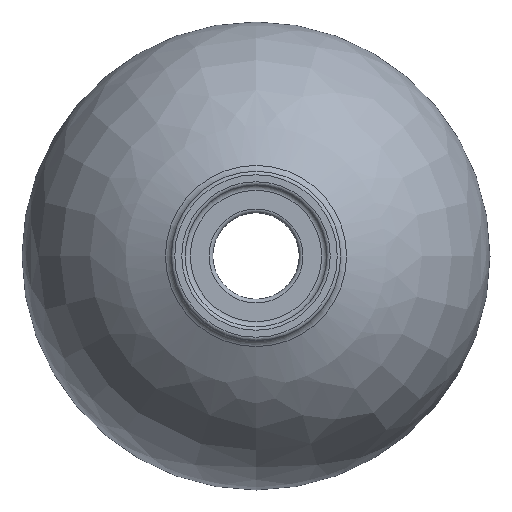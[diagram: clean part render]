
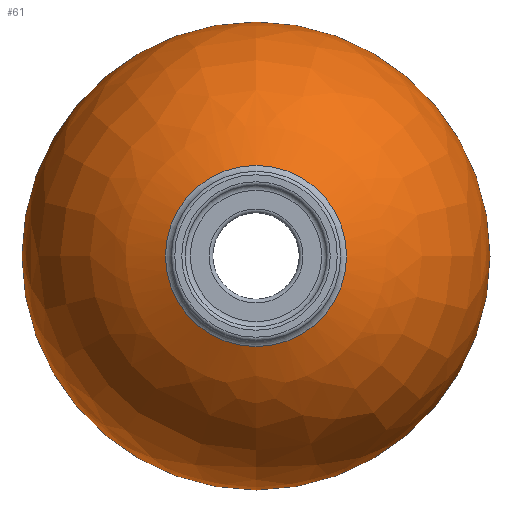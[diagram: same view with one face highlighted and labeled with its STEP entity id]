
A CAD part, front view. The second image highlights one B-rep face of the part: STEP entity #61.
In plain terms, the highlighted free-form (B-spline) face has degree [3, 3] with [4, 7] control points.
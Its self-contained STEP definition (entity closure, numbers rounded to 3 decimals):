
#55=(
BOUNDED_SURFACE()
B_SPLINE_SURFACE(3,3,((#367,#368,#369,#370,#371,#372,#373),(#374,#375,#376,
#377,#378,#379,#380),(#381,#382,#383,#384,#385,#386,#387),(#388,#389,#390,
#391,#392,#393,#394)),.UNSPECIFIED.,.F.,.T.,.F.)
B_SPLINE_SURFACE_WITH_KNOTS((4,4),(1,3,3,3,1),(0.,1.),(-0.5,0.,0.5,1.,1.5),
 .UNSPECIFIED.)
GEOMETRIC_REPRESENTATION_ITEM()
RATIONAL_B_SPLINE_SURFACE(((1.,0.333,0.333,1.,0.333,
0.333,1.),(0.888,0.296,0.296,
0.888,0.296,0.296,0.888),
(0.888,0.296,0.296,0.888,
0.296,0.296,0.888),(1.,0.333,
0.333,1.,0.333,0.333,1.)))
REPRESENTATION_ITEM('')
SURFACE()
);
#61=ADVANCED_FACE('',(#84,#85),#55,.T.);
#84=FACE_BOUND('',#118,.T.);
#85=FACE_BOUND('',#119,.T.);
#118=EDGE_LOOP('',(#152));
#119=EDGE_LOOP('',(#153));
#152=ORIENTED_EDGE('',*,*,#202,.T.);
#153=ORIENTED_EDGE('',*,*,#201,.T.);
#184=VERTEX_POINT('',#363);
#185=VERTEX_POINT('',#366);
#201=EDGE_CURVE('',#184,#184,#218,.T.);
#202=EDGE_CURVE('',#185,#185,#219,.T.);
#218=CIRCLE('',#237,125.);
#219=CIRCLE('',#239,48.403);
#237=AXIS2_PLACEMENT_3D('',#362,#274,#275);
#239=AXIS2_PLACEMENT_3D('',#365,#278,#279);
#274=DIRECTION('',(0.,-1.,0.));
#275=DIRECTION('',(0.,0.,-1.));
#278=DIRECTION('',(0.,1.,0.));
#279=DIRECTION('',(-1.,0.,0.));
#362=CARTESIAN_POINT('',(0.,-2.467,0.));
#363=CARTESIAN_POINT('',(0.,-2.467,-125.));
#365=CARTESIAN_POINT('',(0.,-120.584,0.));
#366=CARTESIAN_POINT('',(-48.403,-120.584,0.));
#367=CARTESIAN_POINT('',(0.,-120.584,-48.403));
#368=CARTESIAN_POINT('',(96.806,-120.584,-48.403));
#369=CARTESIAN_POINT('',(96.806,-120.584,48.403));
#370=CARTESIAN_POINT('',(0.,-120.584,48.403));
#371=CARTESIAN_POINT('',(-96.806,-120.584,48.403));
#372=CARTESIAN_POINT('',(-96.806,-120.584,-48.403));
#373=CARTESIAN_POINT('',(0.,-120.584,-48.403));
#374=CARTESIAN_POINT('',(0.,-99.656,-96.933));
#375=CARTESIAN_POINT('',(193.867,-99.656,-96.933));
#376=CARTESIAN_POINT('',(193.867,-99.656,96.933));
#377=CARTESIAN_POINT('',(0.,-99.656,96.933));
#378=CARTESIAN_POINT('',(-193.867,-99.656,96.933));
#379=CARTESIAN_POINT('',(-193.867,-99.656,-96.933));
#380=CARTESIAN_POINT('',(0.,-99.656,-96.933));
#381=CARTESIAN_POINT('',(0.,-55.313,-125.689));
#382=CARTESIAN_POINT('',(251.378,-55.313,-125.689));
#383=CARTESIAN_POINT('',(251.378,-55.313,125.689));
#384=CARTESIAN_POINT('',(0.,-55.313,125.689));
#385=CARTESIAN_POINT('',(-251.378,-55.313,125.689));
#386=CARTESIAN_POINT('',(-251.378,-55.313,-125.689));
#387=CARTESIAN_POINT('',(0.,-55.313,-125.689));
#388=CARTESIAN_POINT('',(0.,-2.467,-125.));
#389=CARTESIAN_POINT('',(250.,-2.467,-125.));
#390=CARTESIAN_POINT('',(250.,-2.467,125.));
#391=CARTESIAN_POINT('',(0.,-2.467,125.));
#392=CARTESIAN_POINT('',(-250.,-2.467,125.));
#393=CARTESIAN_POINT('',(-250.,-2.467,-125.));
#394=CARTESIAN_POINT('',(0.,-2.467,-125.));
